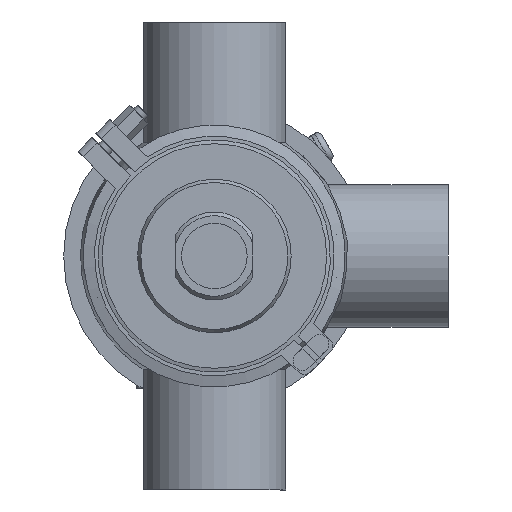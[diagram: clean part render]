
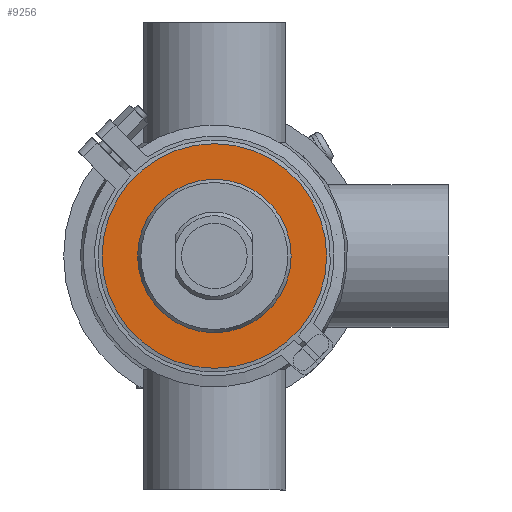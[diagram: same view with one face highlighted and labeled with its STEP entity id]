
A CAD part, front view. The second image highlights one B-rep face of the part: STEP entity #9256.
In plain terms, the highlighted planar face has unit normal (0, -1, 0).
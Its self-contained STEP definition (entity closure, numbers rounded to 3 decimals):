
#2147 = CIRCLE ( 'NONE', #31945, 41. ) ;
#2619 = PLANE ( 'NONE',  #16789 ) ;
#3251 = VERTEX_POINT ( 'NONE', #53369 ) ;
#5967 = CIRCLE ( 'NONE', #51153, 60. ) ;
#6275 = EDGE_LOOP ( 'NONE', ( #57891 ) ) ;
#9256 = ADVANCED_FACE ( 'NONE', ( #22507, #40918 ), #2619, .T. ) ;
#12494 = CARTESIAN_POINT ( 'NONE',  ( -60., -13., 0. ) ) ;
#13337 = VERTEX_POINT ( 'NONE', #27847 ) ;
#16789 = AXIS2_PLACEMENT_3D ( 'NONE', #12494, #46676, #46040 ) ;
#22507 = FACE_BOUND ( 'NONE', #6275, .T. ) ;
#25152 = DIRECTION ( 'NONE',  ( 0., 0., 1. ) ) ;
#27320 = EDGE_LOOP ( 'NONE', ( #35200 ) ) ;
#27847 = CARTESIAN_POINT ( 'NONE',  ( 0., -13., 41. ) ) ;
#29690 = DIRECTION ( 'NONE',  ( 0., 1., 0. ) ) ;
#30334 = DIRECTION ( 'NONE',  ( 0., 0., 1. ) ) ;
#31048 = EDGE_CURVE ( 'NONE', #3251, #3251, #5967, .T. ) ;
#31945 = AXIS2_PLACEMENT_3D ( 'NONE', #53493, #29690, #30334 ) ;
#35200 = ORIENTED_EDGE ( 'NONE', *, *, #31048, .F. ) ;
#39967 = DIRECTION ( 'NONE',  ( 0., 1., 0. ) ) ;
#40284 = CARTESIAN_POINT ( 'NONE',  ( 0., -13., 0. ) ) ;
#40918 = FACE_OUTER_BOUND ( 'NONE', #27320, .T. ) ;
#46040 = DIRECTION ( 'NONE',  ( 0., 0., -1. ) ) ;
#46676 = DIRECTION ( 'NONE',  ( 0., -1., 0. ) ) ;
#46681 = EDGE_CURVE ( 'NONE', #13337, #13337, #2147, .T. ) ;
#51153 = AXIS2_PLACEMENT_3D ( 'NONE', #40284, #39967, #25152 ) ;
#53369 = CARTESIAN_POINT ( 'NONE',  ( 0., -13., 60. ) ) ;
#53493 = CARTESIAN_POINT ( 'NONE',  ( 0., -13., 0. ) ) ;
#57891 = ORIENTED_EDGE ( 'NONE', *, *, #46681, .T. ) ;
